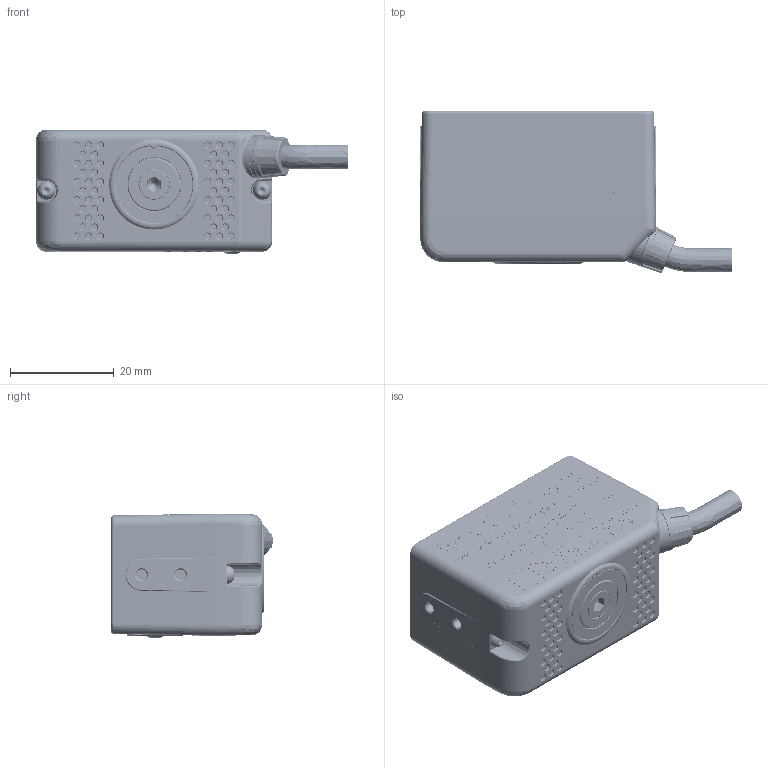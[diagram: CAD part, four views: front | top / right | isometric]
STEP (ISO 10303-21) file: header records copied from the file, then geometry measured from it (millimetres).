
FILE_DESCRIPTION(/* description */ (''),/* implementation_level */ '2;1');
FILE_NAME(/* name */ 'AS001608_01_STP_DSD-0740 (MATRIX 120 USB).stp',/* time_stamp */ '2016-06-24T11:37:35+02:00',/* author */ (''),/* organization */ (''),/* preprocessor_version */ 'ST-DEVELOPER v16',/* originating_system */ 'SIEMENS PLM Software NX 10.0',/* authorisation */ '');
FILE_SCHEMA (('AP203_CONFIGURATION_CONTROLLED_3D_DESIGN_OF_MECHANICAL_PARTS_AND_ASSEMBLIES_MIM_LF { 1 0 10303 403 2 1 2}'));
Products named in the file (1): fgua20A46E2A9qkw
Bounding box: 60.02 x 31.11 x 24.01 mm (x, y, z)
Volume: 10018.4 mm3; surface area: 17090.2 mm2
Topology: 258 solids, 258 shells, 9205 faces, 21228 edges, 12545 vertices
Faces by surface type: plane 3100, cylinder 2577, bspline 1466, extrusion 982, sphere 760, torus 177, cone 143
Full cylindrical faces by diameter (mm): 1.1 x2, 1.6 x4, 1.95 x4, 2.05 x4, 3 x1, 3.2 x1, 3.5 x1, 4.5 x2, 4.6 x3, 4.65 x1, 5.65 x2, 5.9 x2, 5.95 x1, 6 x1, 6.2 x1, 6.3 x1, 7 x1, 7.1 x1, 8.25 x1, 10.5 x2
Entity records: 301591 total; most frequent: CARTESIAN_POINT 108584, ORIENTED_EDGE 41608, DIRECTION 36524, EDGE_CURVE 20804, AXIS2_PLACEMENT_3D 13791, VERTEX_POINT 12461, EDGE_LOOP 9731, ADVANCED_FACE 9204
